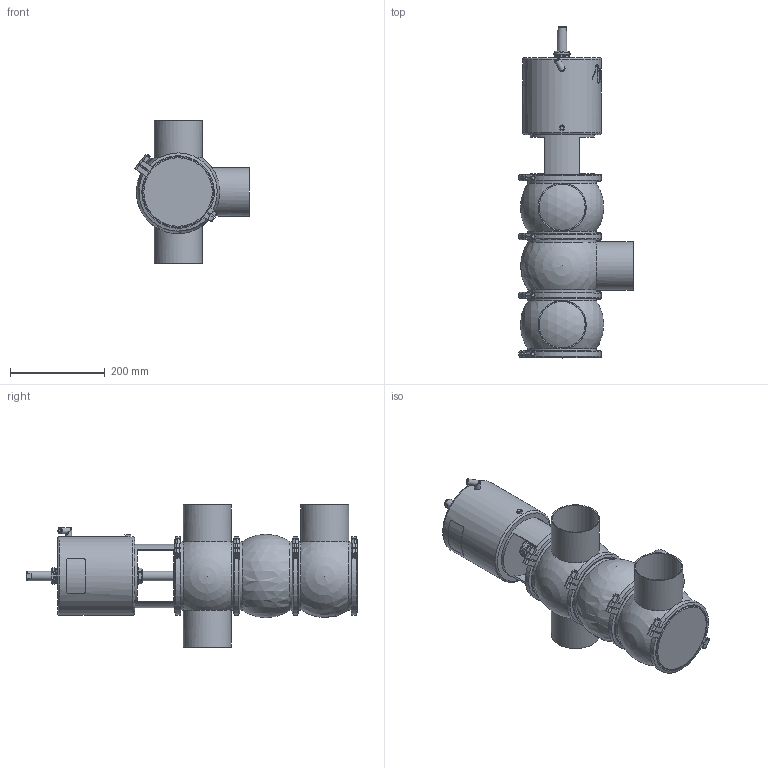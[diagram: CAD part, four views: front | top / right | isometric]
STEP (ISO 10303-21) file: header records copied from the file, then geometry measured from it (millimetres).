
FILE_DESCRIPTION (( 'STEP AP214' ), '1' );
FILE_NAME ('INNOVA L P W OD 4 T4 AS NC_10.241.16.0016.STEP', '2024-08-07T07:43:01', ( '' ), ( '' ), 'SwSTEP 2.0', 'SolidWorks 2023', '' );
FILE_SCHEMA (( 'AUTOMOTIVE_DESIGN' ));
Length unit declared in the file: millimetre
Products named in the file (7): 10.240.15.0010_DN 100; 10.240.15.0001_DN 100; 10.240.15.0007_OD 4"; 10.241.15.0001_DIN 100; 10.240.15.0006_OD 4"; INNOVA L P W OD 4 T4 AS NC_10.241.16.0016; 10.240.15.0014_T4 AS P180
Assembly tree (10 placements, depth 2):
  INNOVA L P W OD 4 T4 AS NC_10.241.16.0016
    10.240.15.0007_OD 4"
    10.240.15.0006_OD 4"  x2
    10.240.15.0010_DN 100
    10.240.15.0014_T4 AS P180
    10.240.15.0001_DN 100  x4
    10.241.15.0001_DIN 100
Bounding box: 241.26 x 700.5 x 300 mm (x, y, z)
Volume: 12097104.2 mm3; surface area: 905739.5 mm2
Topology: 11 solids, 11 shells, 537 faces, 1433 edges, 933 vertices
Faces by surface type: plane 261, cylinder 138, bspline 80, cone 46, sphere 8, torus 4
Full cylindrical faces by diameter (mm): 6.15 x1, 8 x9, 8.5 x1, 10.5 x1, 12.5 x3, 16 x1, 20 x2, 31 x1, 34.5 x2, 36.5 x1, 97.4 x4, 101.6 x4, 135 x1, 144.5 x7, 156.5 x8, 166 x1
Entity records: 20876 total; most frequent: CARTESIAN_POINT 11386, ORIENTED_EDGE 1646, DIRECTION 1287, EDGE_CURVE 823, VERTEX_POINT 568, AXIS2_PLACEMENT_3D 499, EDGE_LOOP 427, FACE_OUTER_BOUND 385
